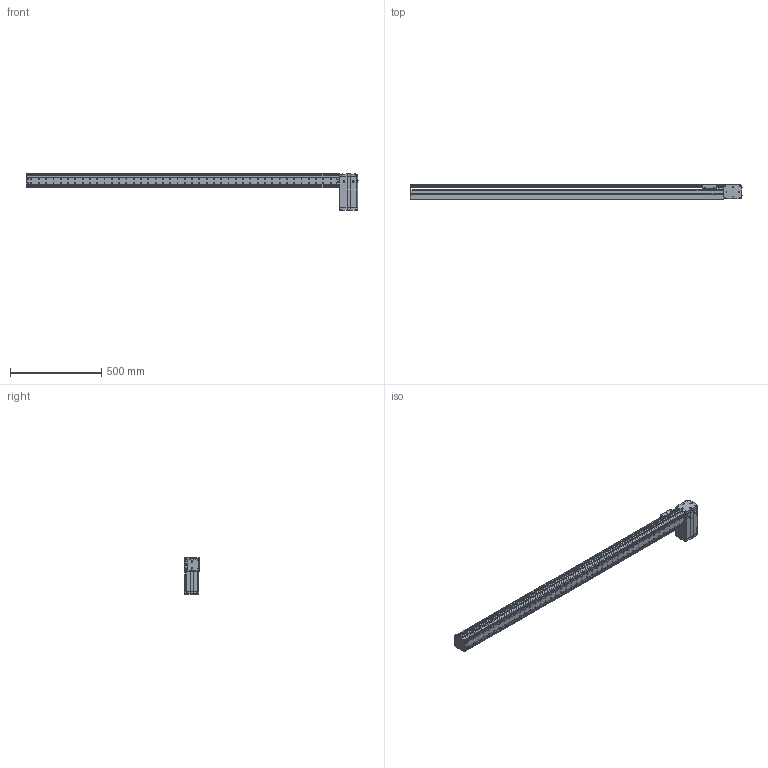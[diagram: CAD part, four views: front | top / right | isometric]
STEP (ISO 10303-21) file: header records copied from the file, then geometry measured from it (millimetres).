
FILE_DESCRIPTION((''),'2;1');
FILE_NAME('BE10_-BL-S_N-F5_IGS_PRT','2017-06-18T',(' '),(''),'PRO/ENGINEER BY PARAMETRIC TECHNOLOGY CORPORATION, 2015030','PRO/ENGINEER BY PARAMETRIC TECHNOLOGY CORPORATION, 2015030','');
FILE_SCHEMA(('CONFIG_CONTROL_DESIGN'));
Products named in the file (1): BE10_-BL-S_N-F5_IGS_PRT
Bounding box: 1820.8 x 85 x 200.22 mm (x, y, z)
Volume: 2471205.6 mm3; surface area: 1682332.8 mm2
Topology: 2 solids, 171 shells, 2255 faces, 6185 edges, 4107 vertices
Faces by surface type: plane 1069, cylinder 1027, cone 103, sphere 28, torus 25, bspline 3
Entity records: 73913 total; most frequent: CARTESIAN_POINT 15220, DIRECTION 12473, ORIENTED_EDGE 11666, EDGE_CURVE 6131, AXIS2_PLACEMENT_3D 4527, VERTEX_POINT 4107, VECTOR 3419, LINE 3419
